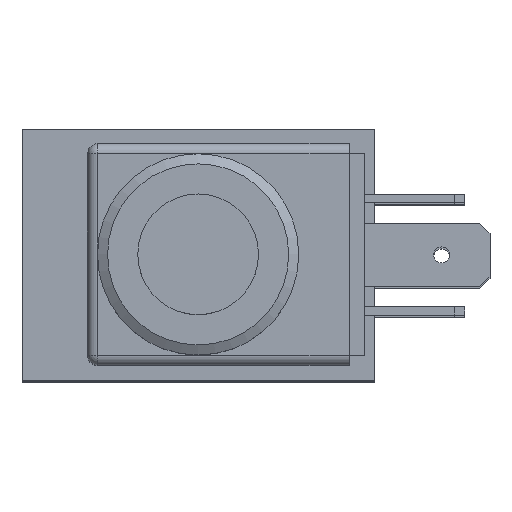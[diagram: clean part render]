
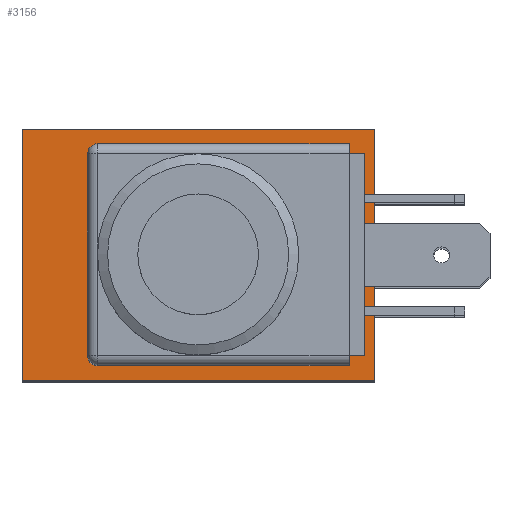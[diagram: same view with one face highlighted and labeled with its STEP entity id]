
A CAD part, top view. The second image highlights one B-rep face of the part: STEP entity #3156.
In plain terms, the highlighted planar face has unit normal (0, 0, 1).
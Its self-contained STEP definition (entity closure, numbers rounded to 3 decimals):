
#730=CARTESIAN_POINT('',(7.5,11.0,41.5));
#731=VERTEX_POINT('',#730);
#738=CARTESIAN_POINT('',(-3.849,11.,41.5));
#739=VERTEX_POINT('',#738);
#740=CARTESIAN_POINT('',(-3.849,11.,41.5));
#741=DIRECTION('',(1.0,0.0,0.0));
#742=VECTOR('',#741,11.349);
#743=LINE('',#740,#742);
#744=EDGE_CURVE('',#739,#731,#743,.T.);
#769=CARTESIAN_POINT('',(-11.,3.849,41.5));
#770=VERTEX_POINT('',#769);
#771=CARTESIAN_POINT('',(-11.,3.849,41.5));
#772=DIRECTION('',(0.707,0.707,0.0));
#773=VECTOR('',#772,10.113);
#774=LINE('',#771,#773);
#775=EDGE_CURVE('',#770,#739,#774,.T.);
#800=CARTESIAN_POINT('',(-11.,-7.5,41.5));
#801=VERTEX_POINT('',#800);
#802=CARTESIAN_POINT('',(-11.,-7.5,41.5));
#803=DIRECTION('',(0.0,1.0,0.0));
#804=VECTOR('',#803,11.349);
#805=LINE('',#802,#804);
#806=EDGE_CURVE('',#801,#770,#805,.T.);
#853=CARTESIAN_POINT('',(-7.5,-11.,41.5));
#854=VERTEX_POINT('',#853);
#855=CARTESIAN_POINT('',(-7.5,-7.5,41.5));
#856=DIRECTION('',(0.0,0.0,-1.0));
#857=DIRECTION('',(0.0,-1.0,0.0));
#858=AXIS2_PLACEMENT_3D('',#855,#856,#857);
#859=CIRCLE('',#858,3.5);
#860=EDGE_CURVE('',#854,#801,#859,.T.);
#885=CARTESIAN_POINT('',(3.849,-11.,41.5));
#886=VERTEX_POINT('',#885);
#887=CARTESIAN_POINT('',(3.849,-11.,41.5));
#888=DIRECTION('',(-1.0,0.0,0.0));
#889=VECTOR('',#888,11.349);
#890=LINE('',#887,#889);
#891=EDGE_CURVE('',#886,#854,#890,.T.);
#916=CARTESIAN_POINT('',(11.,-3.849,41.5));
#917=VERTEX_POINT('',#916);
#918=CARTESIAN_POINT('',(11.0,-3.849,41.5));
#919=DIRECTION('',(-0.707,-0.707,0.0));
#920=VECTOR('',#919,10.113);
#921=LINE('',#918,#920);
#922=EDGE_CURVE('',#917,#886,#921,.T.);
#947=CARTESIAN_POINT('',(11.,7.5,41.5));
#948=VERTEX_POINT('',#947);
#949=CARTESIAN_POINT('',(11.,7.5,41.5));
#950=DIRECTION('',(0.0,-1.0,0.0));
#951=VECTOR('',#950,11.349);
#952=LINE('',#949,#951);
#953=EDGE_CURVE('',#948,#917,#952,.T.);
#998=CARTESIAN_POINT('',(7.5,7.5,41.5));
#999=DIRECTION('',(0.0,0.0,-1.0));
#1000=DIRECTION('',(0.0,1.0,0.0));
#1001=AXIS2_PLACEMENT_3D('',#998,#999,#1000);
#1002=CIRCLE('',#1001,3.5);
#1003=EDGE_CURVE('',#731,#948,#1002,.T.);
#3016=CARTESIAN_POINT('',(17.49,-12.49,41.5));
#3017=VERTEX_POINT('',#3016);
#3018=CARTESIAN_POINT('',(-17.49,-12.49,41.5));
#3019=VERTEX_POINT('',#3018);
#3020=CARTESIAN_POINT('',(17.49,-12.49,41.5));
#3021=DIRECTION('',(-1.0,0.0,0.0));
#3022=VECTOR('',#3021,34.98);
#3023=LINE('',#3020,#3022);
#3024=EDGE_CURVE('',#3017,#3019,#3023,.T.);
#3056=CARTESIAN_POINT('',(-17.49,12.49,41.5));
#3057=VERTEX_POINT('',#3056);
#3058=CARTESIAN_POINT('',(-17.49,-12.49,41.5));
#3059=DIRECTION('',(0.0,1.0,0.0));
#3060=VECTOR('',#3059,24.98);
#3061=LINE('',#3058,#3060);
#3062=EDGE_CURVE('',#3019,#3057,#3061,.T.);
#3087=CARTESIAN_POINT('',(17.49,12.49,41.5));
#3088=VERTEX_POINT('',#3087);
#3089=CARTESIAN_POINT('',(-17.49,12.49,41.5));
#3090=DIRECTION('',(1.0,0.0,0.0));
#3091=VECTOR('',#3090,34.98);
#3092=LINE('',#3089,#3091);
#3093=EDGE_CURVE('',#3057,#3088,#3092,.T.);
#3118=CARTESIAN_POINT('',(17.49,12.49,41.5));
#3119=DIRECTION('',(0.0,-1.0,0.0));
#3120=VECTOR('',#3119,24.98);
#3121=LINE('',#3118,#3120);
#3122=EDGE_CURVE('',#3088,#3017,#3121,.T.);
#3135=CARTESIAN_POINT('',(0.,0.,41.5));
#3136=DIRECTION('',(0.0,0.0,1.0));
#3137=DIRECTION('',(1.0,0.0,0.0));
#3138=AXIS2_PLACEMENT_3D('',#3135,#3136,#3137);
#3139=PLANE('',#3138);
#3140=ORIENTED_EDGE('',*,*,#3024,.F.);
#3141=ORIENTED_EDGE('',*,*,#3122,.F.);
#3142=ORIENTED_EDGE('',*,*,#3093,.F.);
#3143=ORIENTED_EDGE('',*,*,#3062,.F.);
#3144=EDGE_LOOP('',(#3140,#3141,#3142,#3143));
#3145=FACE_OUTER_BOUND('',#3144,.T.);
#3146=ORIENTED_EDGE('',*,*,#744,.T.);
#3147=ORIENTED_EDGE('',*,*,#1003,.T.);
#3148=ORIENTED_EDGE('',*,*,#953,.T.);
#3149=ORIENTED_EDGE('',*,*,#922,.T.);
#3150=ORIENTED_EDGE('',*,*,#891,.T.);
#3151=ORIENTED_EDGE('',*,*,#860,.T.);
#3152=ORIENTED_EDGE('',*,*,#806,.T.);
#3153=ORIENTED_EDGE('',*,*,#775,.T.);
#3154=EDGE_LOOP('',(#3146,#3147,#3148,#3149,#3150,#3151,#3152,#3153));
#3155=FACE_BOUND('',#3154,.T.);
#3156=ADVANCED_FACE('',(#3145,#3155),#3139,.T.);
